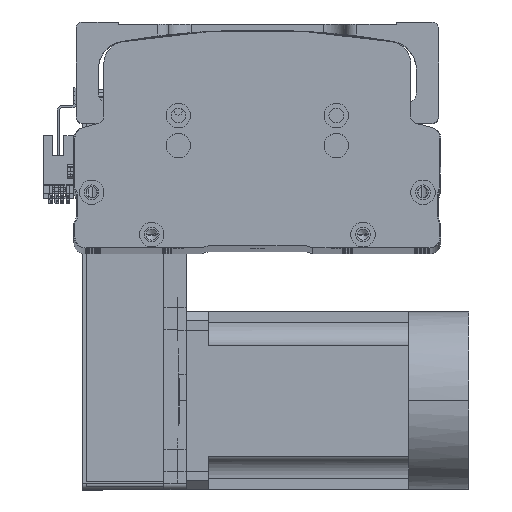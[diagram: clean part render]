
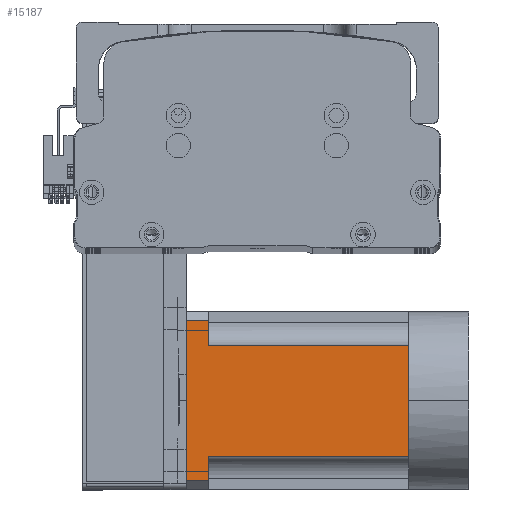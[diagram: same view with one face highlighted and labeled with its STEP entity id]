
A CAD part, top view. The second image highlights one B-rep face of the part: STEP entity #15187.
In plain terms, the highlighted planar face has unit normal (0, 0, 1) as drawn and (0, 0, -1) by its records, which use the part's own axes.
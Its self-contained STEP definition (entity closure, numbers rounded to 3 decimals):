
#316 = ORIENTED_EDGE ( 'NONE', *, *, #28791, .T. ) ;
#1027 = VECTOR ( 'NONE', #45490, 1000. ) ;
#1690 = ORIENTED_EDGE ( 'NONE', *, *, #11280, .F. ) ;
#2978 = LINE ( 'NONE', #9453, #56667 ) ;
#4797 = EDGE_CURVE ( 'NONE', #12002, #39968, #2978, .T. ) ;
#8333 = ORIENTED_EDGE ( 'NONE', *, *, #57268, .T. ) ;
#8601 = DIRECTION ( 'NONE',  ( -1., 0., 0. ) ) ;
#8604 = CARTESIAN_POINT ( 'NONE',  ( -25., 90., -40. ) ) ;
#8900 = VECTOR ( 'NONE', #32906, 1000. ) ;
#9453 = CARTESIAN_POINT ( 'NONE',  ( -36., -27., -40. ) ) ;
#10588 = CARTESIAN_POINT ( 'NONE',  ( -25., -27., -40. ) ) ;
#11280 = EDGE_CURVE ( 'NONE', #46351, #39968, #50774, .T. ) ;
#11321 = ORIENTED_EDGE ( 'NONE', *, *, #43210, .T. ) ;
#11720 = CARTESIAN_POINT ( 'NONE',  ( 36., 100., -40. ) ) ;
#11875 = VECTOR ( 'NONE', #46914, 1000. ) ;
#12002 = VERTEX_POINT ( 'NONE', #56929 ) ;
#14355 = CARTESIAN_POINT ( 'NONE',  ( -40., 0., -40. ) ) ;
#15187 = ADVANCED_FACE ( 'NONE', ( #63922 ), #16491, .T. ) ;
#15557 = EDGE_CURVE ( 'NONE', #38617, #34298, #41136, .T. ) ;
#16491 = PLANE ( 'NONE',  #23872 ) ;
#16562 = CARTESIAN_POINT ( 'NONE',  ( 25., 0., -40. ) ) ;
#16710 = CARTESIAN_POINT ( 'NONE',  ( -40., -27., -40. ) ) ;
#16844 = CARTESIAN_POINT ( 'NONE',  ( 25., 90., -40. ) ) ;
#18626 = ORIENTED_EDGE ( 'NONE', *, *, #15557, .T. ) ;
#20833 = DIRECTION ( 'NONE',  ( -1., 0., 0. ) ) ;
#21942 = DIRECTION ( 'NONE',  ( -1., 0., 0. ) ) ;
#22093 = CARTESIAN_POINT ( 'NONE',  ( -25., 0., -40. ) ) ;
#22287 = CARTESIAN_POINT ( 'NONE',  ( 36., 90., -40. ) ) ;
#23756 = LINE ( 'NONE', #42630, #34266 ) ;
#23872 = AXIS2_PLACEMENT_3D ( 'NONE', #16710, #53084, #21942 ) ;
#25212 = EDGE_CURVE ( 'NONE', #39125, #51756, #53120, .T. ) ;
#28791 = EDGE_CURVE ( 'NONE', #47338, #52565, #50351, .T. ) ;
#30338 = CARTESIAN_POINT ( 'NONE',  ( 36., -27., -40. ) ) ;
#32906 = DIRECTION ( 'NONE',  ( -1., 0., 0. ) ) ;
#33424 = ORIENTED_EDGE ( 'NONE', *, *, #4797, .T. ) ;
#34266 = VECTOR ( 'NONE', #63506, 1000. ) ;
#34298 = VERTEX_POINT ( 'NONE', #8604 ) ;
#34520 = LINE ( 'NONE', #52004, #60542 ) ;
#34747 = CARTESIAN_POINT ( 'NONE',  ( 0., 0., -40. ) ) ;
#35006 = LINE ( 'NONE', #43136, #45610 ) ;
#36486 = VECTOR ( 'NONE', #66651, 1000. ) ;
#36932 = VECTOR ( 'NONE', #8601, 1000. ) ;
#37042 = EDGE_CURVE ( 'NONE', #34298, #12002, #34520, .T. ) ;
#37894 = DIRECTION ( 'NONE',  ( -1., 0., 0. ) ) ;
#38122 = LINE ( 'NONE', #30338, #36486 ) ;
#38510 = ORIENTED_EDGE ( 'NONE', *, *, #25212, .T. ) ;
#38617 = VERTEX_POINT ( 'NONE', #22093 ) ;
#39125 = VERTEX_POINT ( 'NONE', #16562 ) ;
#39968 = VERTEX_POINT ( 'NONE', #55672 ) ;
#40522 = EDGE_LOOP ( 'NONE', ( #1690, #11321, #316, #8333, #38510, #58963, #18626, #42799, #33424 ) ) ;
#41136 = LINE ( 'NONE', #10588, #11875 ) ;
#42630 = CARTESIAN_POINT ( 'NONE',  ( 25., -27., -40. ) ) ;
#42799 = ORIENTED_EDGE ( 'NONE', *, *, #37042, .T. ) ;
#43136 = CARTESIAN_POINT ( 'NONE',  ( -40., 0., -40. ) ) ;
#43210 = EDGE_CURVE ( 'NONE', #46351, #47338, #38122, .T. ) ;
#43410 = CARTESIAN_POINT ( 'NONE',  ( -40., 90., -40. ) ) ;
#45490 = DIRECTION ( 'NONE',  ( -1., 0., 0. ) ) ;
#45610 = VECTOR ( 'NONE', #37894, 1000. ) ;
#46351 = VERTEX_POINT ( 'NONE', #11720 ) ;
#46914 = DIRECTION ( 'NONE',  ( 0., 1., 0. ) ) ;
#47338 = VERTEX_POINT ( 'NONE', #22287 ) ;
#50351 = LINE ( 'NONE', #43410, #8900 ) ;
#50774 = LINE ( 'NONE', #54509, #36932 ) ;
#51756 = VERTEX_POINT ( 'NONE', #34747 ) ;
#52004 = CARTESIAN_POINT ( 'NONE',  ( -40., 90., -40. ) ) ;
#52565 = VERTEX_POINT ( 'NONE', #16844 ) ;
#53084 = DIRECTION ( 'NONE',  ( 0., 0., -1. ) ) ;
#53120 = LINE ( 'NONE', #14355, #1027 ) ;
#54509 = CARTESIAN_POINT ( 'NONE',  ( -40., 100., -40. ) ) ;
#55672 = CARTESIAN_POINT ( 'NONE',  ( -36., 100., -40. ) ) ;
#56667 = VECTOR ( 'NONE', #67079, 1000. ) ;
#56929 = CARTESIAN_POINT ( 'NONE',  ( -36., 90., -40. ) ) ;
#57268 = EDGE_CURVE ( 'NONE', #52565, #39125, #23756, .T. ) ;
#58059 = EDGE_CURVE ( 'NONE', #51756, #38617, #35006, .T. ) ;
#58963 = ORIENTED_EDGE ( 'NONE', *, *, #58059, .T. ) ;
#60542 = VECTOR ( 'NONE', #20833, 1000. ) ;
#63506 = DIRECTION ( 'NONE',  ( 0., -1., 0. ) ) ;
#63922 = FACE_OUTER_BOUND ( 'NONE', #40522, .T. ) ;
#66651 = DIRECTION ( 'NONE',  ( 0., -1., 0. ) ) ;
#67079 = DIRECTION ( 'NONE',  ( 0., 1., 0. ) ) ;
